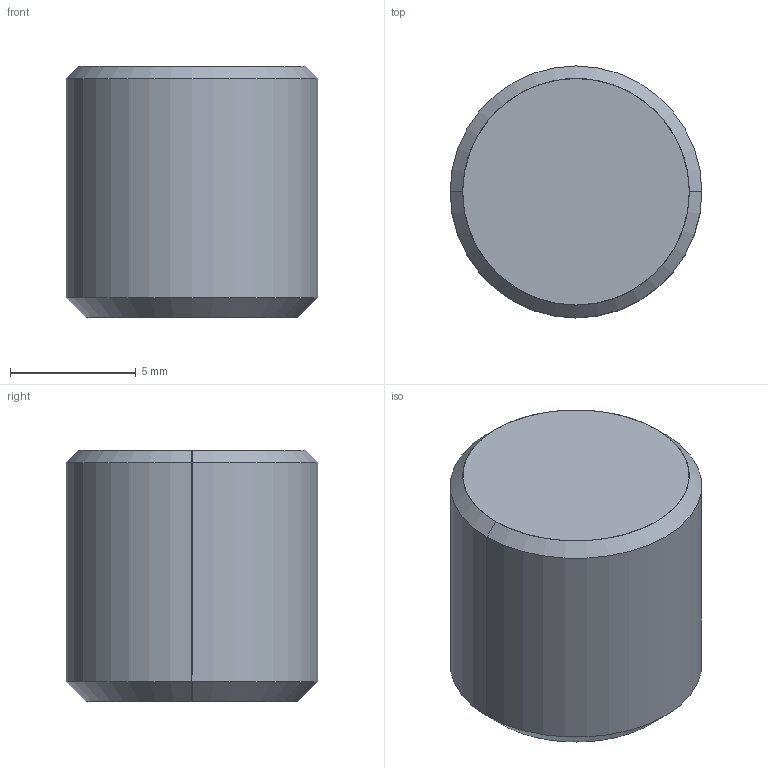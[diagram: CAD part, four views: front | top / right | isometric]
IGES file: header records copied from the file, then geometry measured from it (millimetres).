
Start section: SolidWorks IGES file using analytic representation for surfaces
Global section: file name: X:\11_SW2020-Inv2020\00_全2021-11新製品まで\s\SRP-100\srp-100.IGS; native system: SolidWorks 2020; preprocessor: SolidWorks 2020; author: ImaoCorp; date: 211025.132810; units: millimetre
Bounding box: 10 x 10 x 10 mm (x, y, z)
Surface area: 524.7 mm2 (no closed solid volume)
Topology: 0 solids, 0 shells, 11 faces, 160 edges, 160 vertices
Faces by surface type: revolution 8, bspline 3
